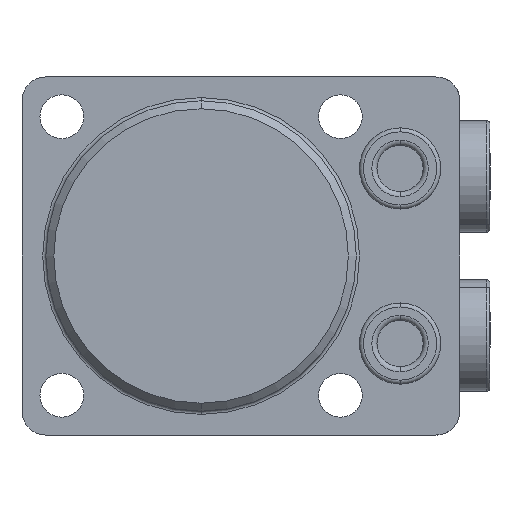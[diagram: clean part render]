
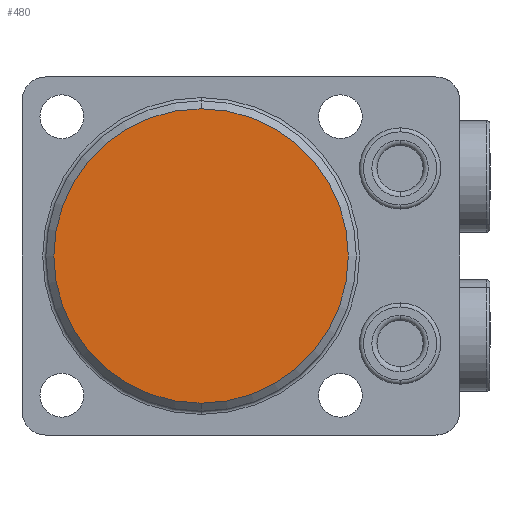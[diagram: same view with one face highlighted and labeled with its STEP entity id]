
A CAD part, front view. The second image highlights one B-rep face of the part: STEP entity #480.
In plain terms, the highlighted planar face has unit normal (0, -1, 0) as drawn and (0, 1, 0) by its records, which use the part's own axes.
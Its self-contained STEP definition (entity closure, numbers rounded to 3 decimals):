
#220=PLANE('',#3221);
#480=ADVANCED_FACE('',(#690),#220,.T.);
#690=FACE_OUTER_BOUND('',#874,.F.);
#874=EDGE_LOOP('',(#1797,#1798));
#1797=ORIENTED_EDGE('',*,*,#2679,.T.);
#1798=ORIENTED_EDGE('',*,*,#2618,.T.);
#2285=VERTEX_POINT('',#4962);
#2286=VERTEX_POINT('',#4963);
#2618=EDGE_CURVE('',#2285,#2286,#2899,.T.);
#2679=EDGE_CURVE('',#2286,#2285,#2921,.T.);
#2899=CIRCLE('',#3185,18.5);
#2921=CIRCLE('',#3220,18.5);
#3185=AXIS2_PLACEMENT_3D('',#4961,#3873,#3874);
#3220=AXIS2_PLACEMENT_3D('',#5091,#3977,#3978);
#3221=AXIS2_PLACEMENT_3D('',#5092,#3979,#3980);
#3873=DIRECTION('',(0.,-1.,0.));
#3874=DIRECTION('',(0.,0.,1.));
#3977=DIRECTION('',(0.,-1.,0.));
#3978=DIRECTION('',(0.,0.,1.));
#3979=DIRECTION('',(0.,1.,0.));
#3980=DIRECTION('',(0.,0.,1.));
#4961=CARTESIAN_POINT('',(0.,0.,0.));
#4962=CARTESIAN_POINT('',(0.,0.,-18.5));
#4963=CARTESIAN_POINT('',(0.,0.,18.5));
#5091=CARTESIAN_POINT('',(0.,0.,0.));
#5092=CARTESIAN_POINT('',(-22.5,0.,22.5));
